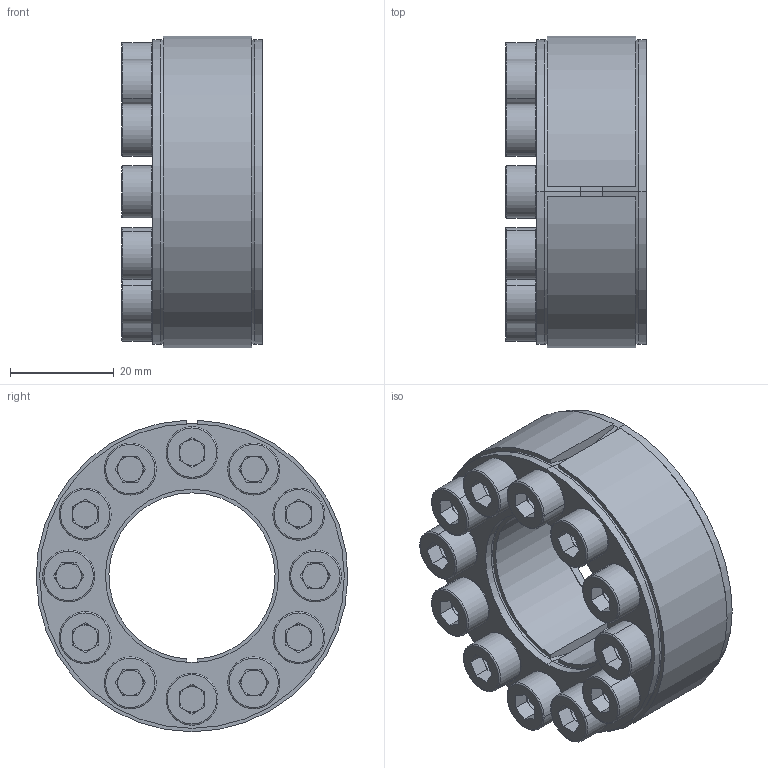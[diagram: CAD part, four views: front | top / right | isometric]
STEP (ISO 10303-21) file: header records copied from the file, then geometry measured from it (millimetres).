
FILE_DESCRIPTION (( 'STEP AP203' ), '1' );
FILE_NAME ('D1-32-60 Assy.STEP', '2017-10-11T03:19:21', ( 'MYCOM' ), ( '' ), 'SwSTEP 2.0', 'SolidWorks 2015', '' );
FILE_SCHEMA (( 'CONFIG_CONTROL_DESIGN' ));
Length unit declared in the file: millimetre
Products named in the file (1): D1-32-60 Assy
Bounding box: 27.14 x 59.99 x 59.98 mm (x, y, z)
Surface area: 20657 mm2 (no closed solid volume)
Topology: 0 solids, 28 shells, 331 faces, 823 edges, 508 vertices
Faces by surface type: plane 166, cylinder 83, torus 48, cone 34
Entity records: 9857 total; most frequent: DIRECTION 1876, CARTESIAN_POINT 1705, ORIENTED_EDGE 1467, EDGE_CURVE 823, AXIS2_PLACEMENT_3D 729, VERTEX_POINT 508, VECTOR 418, LINE 418
